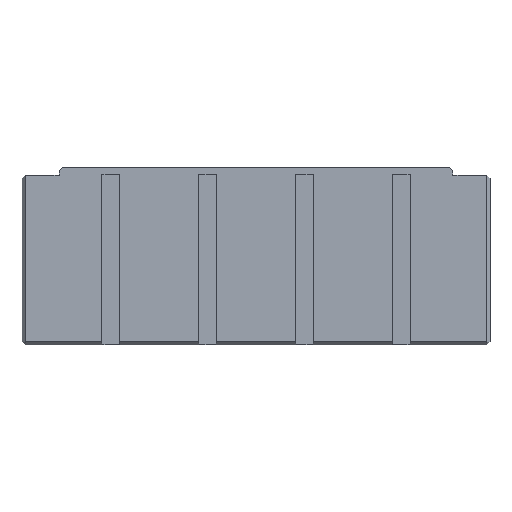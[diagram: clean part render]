
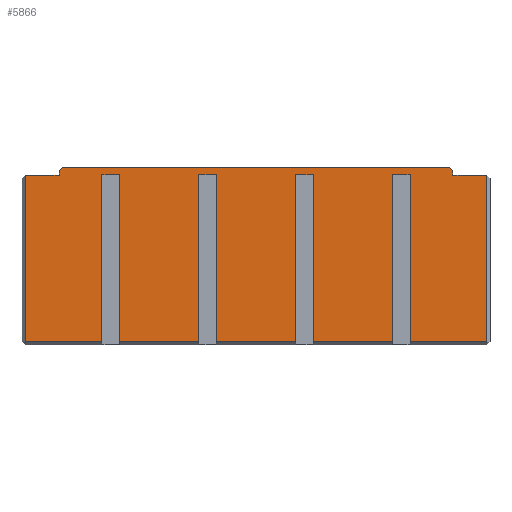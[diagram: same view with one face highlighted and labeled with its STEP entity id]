
A CAD part, front view. The second image highlights one B-rep face of the part: STEP entity #5866.
In plain terms, the highlighted planar face has unit normal (0, -1, 0).
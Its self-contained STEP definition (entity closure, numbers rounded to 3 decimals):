
#1751=CARTESIAN_POINT(' ',(2.,-12.5,-5.));
#1752=VERTEX_POINT(' ',#1751);
#1791=CARTESIAN_POINT(' ',(2.,-12.5,-108.));
#1792=VERTEX_POINT(' ',#1791);
#1806=CARTESIAN_POINT(' ',(2.,-12.5,-5.));
#1811=DIRECTION(' ',(0.,0.,-1.));
#1816=VECTOR(' ',#1811,1.);
#1821=LINE('',#1806,#1816);
#1826=EDGE_CURVE(' ',#1752,#1792,#1821,.T.);
#4956=DIRECTION(' ',(0.,-1.,-0.));
#4961=CARTESIAN_POINT(' ',(2.,-12.5,-108.));
#4966=DIRECTION(' ',(1.,0.,0.));
#4971=AXIS2_PLACEMENT_3D(' ',#4961,#4956,#4966);
#4976=PLANE('NONE',#4971);
#4981=CARTESIAN_POINT(' ',(169.5,-12.5,-4.5));
#4986=DIRECTION(' ',(0.,0.,-1.));
#4991=VECTOR(' ',#4986,1.);
#4996=LINE('',#4981,#4991);
#5001=CARTESIAN_POINT(' ',(169.5,-12.5,-4.5));
#5002=VERTEX_POINT(' ',#5001);
#5006=CARTESIAN_POINT(' ',(169.5,-12.5,-108.));
#5007=VERTEX_POINT(' ',#5006);
#5011=EDGE_CURVE(' ',#5002,#5007,#4996,.T.);
#5016=ORIENTED_EDGE(' ',*,*,#5011,.F.);
#5021=CARTESIAN_POINT(' ',(180.5,-12.5,-4.5));
#5026=DIRECTION(' ',(-1.,0.,0.));
#5031=VECTOR(' ',#5026,1.);
#5036=LINE('',#5021,#5031);
#5041=CARTESIAN_POINT(' ',(180.5,-12.5,-4.5));
#5042=VERTEX_POINT(' ',#5041);
#5046=EDGE_CURVE(' ',#5042,#5002,#5036,.T.);
#5051=ORIENTED_EDGE(' ',*,*,#5046,.F.);
#5056=CARTESIAN_POINT(' ',(180.5,-12.5,-4.5));
#5061=DIRECTION(' ',(0.,0.,-1.));
#5066=VECTOR(' ',#5061,1.);
#5071=LINE('',#5056,#5066);
#5076=CARTESIAN_POINT(' ',(180.5,-12.5,-108.));
#5077=VERTEX_POINT(' ',#5076);
#5081=EDGE_CURVE(' ',#5042,#5077,#5071,.T.);
#5086=ORIENTED_EDGE(' ',*,*,#5081,.T.);
#5091=CARTESIAN_POINT(' ',(180.5,-12.5,-108.));
#5096=DIRECTION(' ',(1.,0.,0.));
#5101=VECTOR(' ',#5096,1.);
#5106=LINE('',#5091,#5101);
#5111=CARTESIAN_POINT(' ',(229.5,-12.5,-108.));
#5112=VERTEX_POINT(' ',#5111);
#5116=EDGE_CURVE(' ',#5077,#5112,#5106,.T.);
#5121=ORIENTED_EDGE(' ',*,*,#5116,.T.);
#5126=CARTESIAN_POINT(' ',(229.5,-12.5,-4.5));
#5131=DIRECTION(' ',(0.,0.,-1.));
#5136=VECTOR(' ',#5131,1.);
#5141=LINE('',#5126,#5136);
#5146=CARTESIAN_POINT(' ',(229.5,-12.5,-4.5));
#5147=VERTEX_POINT(' ',#5146);
#5151=EDGE_CURVE(' ',#5147,#5112,#5141,.T.);
#5156=ORIENTED_EDGE(' ',*,*,#5151,.F.);
#5161=CARTESIAN_POINT(' ',(240.5,-12.5,-4.5));
#5166=DIRECTION(' ',(-1.,0.,0.));
#5171=VECTOR(' ',#5166,1.);
#5176=LINE('',#5161,#5171);
#5181=CARTESIAN_POINT(' ',(240.5,-12.5,-4.5));
#5182=VERTEX_POINT(' ',#5181);
#5186=EDGE_CURVE(' ',#5182,#5147,#5176,.T.);
#5191=ORIENTED_EDGE(' ',*,*,#5186,.F.);
#5196=CARTESIAN_POINT(' ',(240.5,-12.5,-4.5));
#5201=DIRECTION(' ',(0.,0.,-1.));
#5206=VECTOR(' ',#5201,1.);
#5211=LINE('',#5196,#5206);
#5216=CARTESIAN_POINT(' ',(240.5,-12.5,-108.));
#5217=VERTEX_POINT(' ',#5216);
#5221=EDGE_CURVE(' ',#5182,#5217,#5211,.T.);
#5226=ORIENTED_EDGE(' ',*,*,#5221,.T.);
#5231=CARTESIAN_POINT(' ',(240.5,-12.5,-108.));
#5236=DIRECTION(' ',(1.,0.,0.));
#5241=VECTOR(' ',#5236,1.);
#5246=LINE('',#5231,#5241);
#5251=CARTESIAN_POINT(' ',(288.,-12.5,-108.));
#5252=VERTEX_POINT(' ',#5251);
#5256=EDGE_CURVE(' ',#5217,#5252,#5246,.T.);
#5261=ORIENTED_EDGE(' ',*,*,#5256,.T.);
#5266=CARTESIAN_POINT(' ',(288.,-12.5,-108.));
#5271=DIRECTION(' ',(0.,0.,1.));
#5276=VECTOR(' ',#5271,1.);
#5281=LINE('',#5266,#5276);
#5286=CARTESIAN_POINT(' ',(288.,-12.5,-5.));
#5287=VERTEX_POINT(' ',#5286);
#5291=EDGE_CURVE(' ',#5252,#5287,#5281,.T.);
#5296=ORIENTED_EDGE(' ',*,*,#5291,.T.);
#5301=CARTESIAN_POINT(' ',(288.,-12.5,-5.));
#5306=DIRECTION(' ',(-1.,0.,0.));
#5311=VECTOR(' ',#5306,1.);
#5316=LINE('',#5301,#5311);
#5321=CARTESIAN_POINT(' ',(267.,-12.5,-5.));
#5322=VERTEX_POINT(' ',#5321);
#5326=EDGE_CURVE(' ',#5287,#5322,#5316,.T.);
#5331=ORIENTED_EDGE(' ',*,*,#5326,.T.);
#5336=CARTESIAN_POINT(' ',(267.,-12.5,-5.));
#5341=DIRECTION(' ',(0.,0.,1.));
#5346=VECTOR(' ',#5341,1.);
#5351=LINE('',#5336,#5346);
#5356=CARTESIAN_POINT(' ',(267.,-12.5,-2.));
#5357=VERTEX_POINT(' ',#5356);
#5361=EDGE_CURVE(' ',#5322,#5357,#5351,.T.);
#5366=ORIENTED_EDGE(' ',*,*,#5361,.T.);
#5371=CARTESIAN_POINT(' ',(267.,-12.5,-2.));
#5376=DIRECTION(' ',(-0.707,0.,0.707));
#5381=VECTOR(' ',#5376,1.);
#5386=LINE('',#5371,#5381);
#5391=CARTESIAN_POINT(' ',(265.,-12.5,0.));
#5392=VERTEX_POINT(' ',#5391);
#5396=EDGE_CURVE(' ',#5357,#5392,#5386,.T.);
#5401=ORIENTED_EDGE(' ',*,*,#5396,.T.);
#5406=CARTESIAN_POINT(' ',(265.,-12.5,0.));
#5411=DIRECTION(' ',(-1.,0.,0.));
#5416=VECTOR(' ',#5411,1.);
#5421=LINE('',#5406,#5416);
#5426=CARTESIAN_POINT(' ',(25.,-12.5,0.));
#5427=VERTEX_POINT(' ',#5426);
#5431=EDGE_CURVE(' ',#5392,#5427,#5421,.T.);
#5436=ORIENTED_EDGE(' ',*,*,#5431,.T.);
#5441=CARTESIAN_POINT(' ',(25.,-12.5,0.));
#5446=DIRECTION(' ',(-0.707,0.,-0.707));
#5451=VECTOR(' ',#5446,1.);
#5456=LINE('',#5441,#5451);
#5461=CARTESIAN_POINT(' ',(23.,-12.5,-2.));
#5462=VERTEX_POINT(' ',#5461);
#5466=EDGE_CURVE(' ',#5427,#5462,#5456,.T.);
#5471=ORIENTED_EDGE(' ',*,*,#5466,.T.);
#5476=CARTESIAN_POINT(' ',(23.,-12.5,-2.));
#5481=DIRECTION(' ',(0.,0.,-1.));
#5486=VECTOR(' ',#5481,1.);
#5491=LINE('',#5476,#5486);
#5496=CARTESIAN_POINT(' ',(23.,-12.5,-5.));
#5497=VERTEX_POINT(' ',#5496);
#5501=EDGE_CURVE(' ',#5462,#5497,#5491,.T.);
#5506=ORIENTED_EDGE(' ',*,*,#5501,.T.);
#5511=CARTESIAN_POINT(' ',(23.,-12.5,-5.));
#5516=DIRECTION(' ',(-1.,0.,0.));
#5521=VECTOR(' ',#5516,1.);
#5526=LINE('',#5511,#5521);
#5531=EDGE_CURVE(' ',#5497,#1752,#5526,.T.);
#5536=ORIENTED_EDGE(' ',*,*,#5531,.T.);
#5541=ORIENTED_EDGE(' ',*,*,#1826,.T.);
#5546=CARTESIAN_POINT(' ',(2.,-12.5,-108.));
#5551=DIRECTION(' ',(1.,0.,0.));
#5556=VECTOR(' ',#5551,1.);
#5561=LINE('',#5546,#5556);
#5566=CARTESIAN_POINT(' ',(49.5,-12.5,-108.));
#5567=VERTEX_POINT(' ',#5566);
#5571=EDGE_CURVE(' ',#1792,#5567,#5561,.T.);
#5576=ORIENTED_EDGE(' ',*,*,#5571,.T.);
#5581=CARTESIAN_POINT(' ',(49.5,-12.5,-4.5));
#5586=DIRECTION(' ',(0.,0.,-1.));
#5591=VECTOR(' ',#5586,1.);
#5596=LINE('',#5581,#5591);
#5601=CARTESIAN_POINT(' ',(49.5,-12.5,-4.5));
#5602=VERTEX_POINT(' ',#5601);
#5606=EDGE_CURVE(' ',#5602,#5567,#5596,.T.);
#5611=ORIENTED_EDGE(' ',*,*,#5606,.F.);
#5616=CARTESIAN_POINT(' ',(60.5,-12.5,-4.5));
#5621=DIRECTION(' ',(-1.,0.,0.));
#5626=VECTOR(' ',#5621,1.);
#5631=LINE('',#5616,#5626);
#5636=CARTESIAN_POINT(' ',(60.5,-12.5,-4.5));
#5637=VERTEX_POINT(' ',#5636);
#5641=EDGE_CURVE(' ',#5637,#5602,#5631,.T.);
#5646=ORIENTED_EDGE(' ',*,*,#5641,.F.);
#5651=CARTESIAN_POINT(' ',(60.5,-12.5,-4.5));
#5656=DIRECTION(' ',(0.,0.,-1.));
#5661=VECTOR(' ',#5656,1.);
#5666=LINE('',#5651,#5661);
#5671=CARTESIAN_POINT(' ',(60.5,-12.5,-108.));
#5672=VERTEX_POINT(' ',#5671);
#5676=EDGE_CURVE(' ',#5637,#5672,#5666,.T.);
#5681=ORIENTED_EDGE(' ',*,*,#5676,.T.);
#5686=CARTESIAN_POINT(' ',(60.5,-12.5,-108.));
#5691=DIRECTION(' ',(1.,0.,0.));
#5696=VECTOR(' ',#5691,1.);
#5701=LINE('',#5686,#5696);
#5706=CARTESIAN_POINT(' ',(109.5,-12.5,-108.));
#5707=VERTEX_POINT(' ',#5706);
#5711=EDGE_CURVE(' ',#5672,#5707,#5701,.T.);
#5716=ORIENTED_EDGE(' ',*,*,#5711,.T.);
#5721=CARTESIAN_POINT(' ',(109.5,-12.5,-4.5));
#5726=DIRECTION(' ',(0.,0.,-1.));
#5731=VECTOR(' ',#5726,1.);
#5736=LINE('',#5721,#5731);
#5741=CARTESIAN_POINT(' ',(109.5,-12.5,-4.5));
#5742=VERTEX_POINT(' ',#5741);
#5746=EDGE_CURVE(' ',#5742,#5707,#5736,.T.);
#5751=ORIENTED_EDGE(' ',*,*,#5746,.F.);
#5756=CARTESIAN_POINT(' ',(120.5,-12.5,-4.5));
#5761=DIRECTION(' ',(-1.,0.,0.));
#5766=VECTOR(' ',#5761,1.);
#5771=LINE('',#5756,#5766);
#5776=CARTESIAN_POINT(' ',(120.5,-12.5,-4.5));
#5777=VERTEX_POINT(' ',#5776);
#5781=EDGE_CURVE(' ',#5777,#5742,#5771,.T.);
#5786=ORIENTED_EDGE(' ',*,*,#5781,.F.);
#5791=CARTESIAN_POINT(' ',(120.5,-12.5,-4.5));
#5796=DIRECTION(' ',(0.,0.,-1.));
#5801=VECTOR(' ',#5796,1.);
#5806=LINE('',#5791,#5801);
#5811=CARTESIAN_POINT(' ',(120.5,-12.5,-108.));
#5812=VERTEX_POINT(' ',#5811);
#5816=EDGE_CURVE(' ',#5777,#5812,#5806,.T.);
#5821=ORIENTED_EDGE(' ',*,*,#5816,.T.);
#5826=CARTESIAN_POINT(' ',(120.5,-12.5,-108.));
#5831=DIRECTION(' ',(1.,0.,0.));
#5836=VECTOR(' ',#5831,1.);
#5841=LINE('',#5826,#5836);
#5846=EDGE_CURVE(' ',#5812,#5007,#5841,.T.);
#5851=ORIENTED_EDGE(' ',*,*,#5846,.T.);
#5856=EDGE_LOOP(' ',(#5016,#5051,#5086,#5121,#5156,#5191,#5226,#5261,#5296,#5331,#5366,#5401,#5436,#5471,#5506,#5536,#5541,#5576,#5611,#5646,#5681,#5716,#5751,#5786,#5821,#5851));
#5861=FACE_OUTER_BOUND(' ',#5856,.T.);
#5866=ADVANCED_FACE('NONE',(#5861),#4976,.T.);
